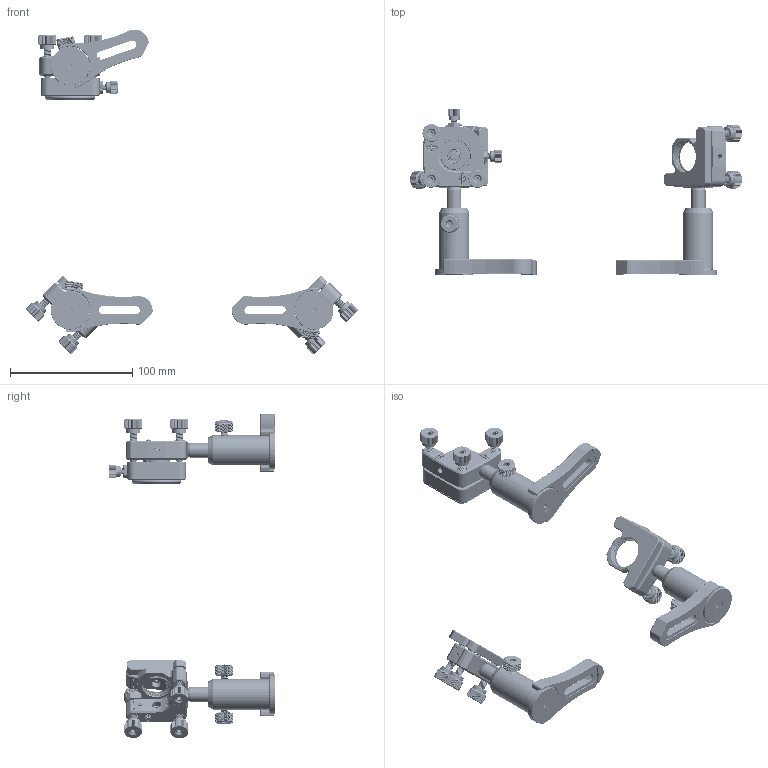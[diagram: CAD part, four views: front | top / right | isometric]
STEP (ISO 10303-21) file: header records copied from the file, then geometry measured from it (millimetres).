
FILE_DESCRIPTION((''),'2;1');
FILE_NAME('01_ASM','2026-05-30T16:04:53',('Administrator'),(''),'CREO PARAMETRIC BY PTC INC, 2025102','CREO PARAMETRIC BY PTC INC, 2025102','');
FILE_SCHEMA(('CONFIG_CONTROL_DESIGN'));
Length unit declared in the file: millimetre
Products named in the file (123): PCA6-S-1_2; CA50-A_4_1_1; CA50-A_4_2_1; CA50-A_4_ASM_1_ASM; CA50-A-1_ASM_1_ASM; PCA31-S_1; M-BASE-C_1; _100_ASM_3_ASM; 1120SMA-A1_85_1; 1120SMA-A3_79_1; 1120SMA-A2_ASM_19_ASM_1_ASM; 1120FC-A2-1_1_1; 1120SMA_ASM_234_ASM_1_ASM; 1120SMA-1_ASM_1_ASM; POT-11_1; MKX5-T1-A1_7_1; MKX5-T1-A2_11_1; MKX5-T1-A3_7_1; MKX5-T1-A4_15_1; MKX5-T1-A5_7_1; MKX5-T1-A6_7_1; MKX5-T1-A7_12_1; MKX5-T1-A8_9_1; MKX5-T1-A9_7_1; MKX5-T1-B1_14_1; MKX5-T1-B2_7_1; MKX5-T1-B3_8_1; MKX5-T1-B4_7_1; MKX5-T1-B5_7_1; MKX5-T1-B6_7_1; MKX5-T1-B7_187_1; MKX5-T1-B8_7_1; MKX5-T1-B9_7_1; MKX5-T1-C1_9_1; MKX5-T1-C2_7_1; MKX5-T1-C3_7_1; MKX5-T1-C4_64_1; MKX5-T1-C5_7_1; MKX5-T1-C6_39_1; MKX5-T1-C7_16_1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
Assembly tree (145 placements, depth 6):
  01_ASM
    _100_ASM_3_ASM  x3
      PCA6-S-1_2
      CA50-A-1_ASM_1_ASM
        CA50-A_4_ASM_1_ASM
          CA50-A_4_1_1
          CA50-A_4_2_1
      PCA31-S_1
      M-BASE-C_1
    00_ASM_4_ASM
      1120SMA-1_ASM_1_ASM
        1120SMA_ASM_234_ASM_1_ASM
          1120SMA-A1_85_1
          1120SMA-A2_ASM_19_ASM_1_ASM
            1120SMA-A3_79_1
          1120FC-A2-1_1_1
      POT-11_1
      MKX5-T1_ASM_ASM_1_ASM
        MKX5-T1_ASM_345_ASM_1_ASM
          MKX5-T1-A1_7_1
          MKX5-T1-A2_11_1
          MKX5-T1-A3_7_1
          MKX5-T1-A4_15_1
          MKX5-T1-A5_7_1
          MKX5-T1-A6_7_1
          MKX5-T1-A7_12_1
          MKX5-T1-A8_9_1  x2
          MKX5-T1-A9_7_1
          MKX5-T1-B1_14_1
          MKX5-T1-B2_7_1
          MKX5-T1-B3_8_1
          MKX5-T1-B4_7_1
          MKX5-T1-B5_7_1
          MKX5-T1-B6_7_1
          MKX5-T1-B7_187_1  x2
          MKX5-T1-B8_7_1
          MKX5-T1-B9_7_1
          MKX5-T1-C1_9_1
          MKX5-T1-C2_7_1
          MKX5-T1-C3_7_1
          MKX5-T1-C4_64_1  x2
          MKX5-T1-C5_7_1
          MKX5-T1-C6_39_1  x2
          MKX5-T1-C7_16_1  x2
          MKX5-T1-C8_128_1
          MKX5-T1-C9_7_1
          MKX5-T1-D1_47_1
          MKX5-T1-D2_7_1
          MKX5-T1-D3_7_1
          MKX5-T1-D4_7_1
          MKX5-T1-D5_7_1
          MKX5-T1-D6_10_1
          MKX5-T1-D7_8_1
          MKX5-T1-D8_7_1
          MKX5-T1-D9_7_1
          MKX5-T1-E1_11_1
          MKX5-T1-E2_7_1
          MKX5-T1-E3_7_1
          MKX5-T1-E4_7_1
          MKX5-T1-E5_138_1  x2
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Bounding box: 272.02 x 136.14 x 266.16 mm (x, y, z)
Volume: 224943.6 mm3; surface area: 153520.3 mm2
Topology: 146 solids, 157 shells, 22470 faces, 59260 edges, 37154 vertices
Faces by surface type: bspline 8971, cylinder 7672, plane 4253, cone 1393, extrusion 75, sphere 62, torus 44
Entity records: 806329 total; most frequent: CARTESIAN_POINT 594776, ORIENTED_EDGE 51839, DIRECTION 29879, EDGE_CURVE 25944, VERTEX_POINT 16422, B_SPLINE_CURVE_WITH_KNOTS 13480, AXIS2_PLACEMENT_3D 10462, EDGE_LOOP 10137
